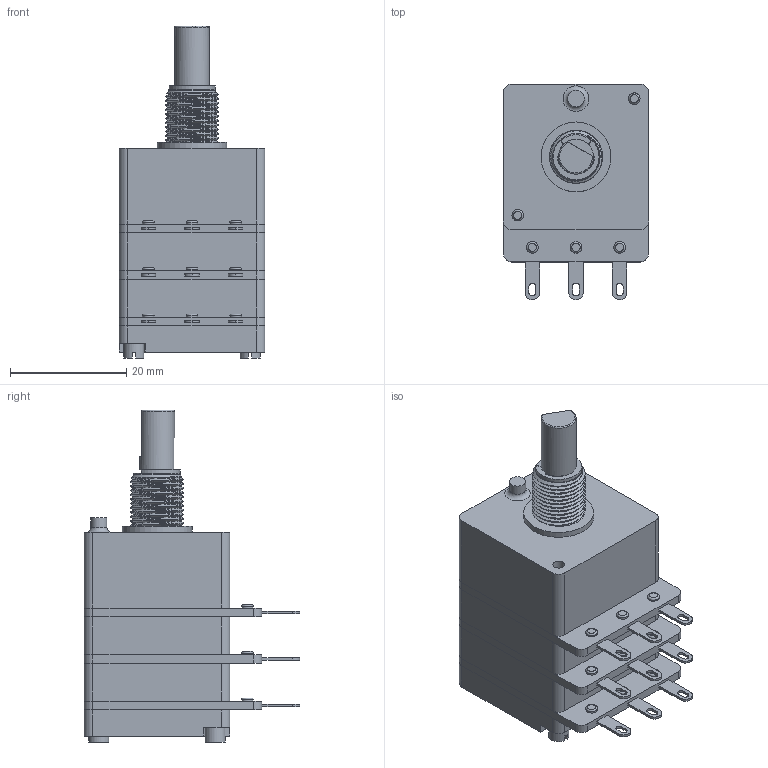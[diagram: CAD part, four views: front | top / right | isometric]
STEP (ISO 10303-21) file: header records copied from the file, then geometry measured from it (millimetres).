
FILE_DESCRIPTION(('FreeCAD Model'),'2;1');
FILE_NAME('Open CASCADE Shape Model','2024-02-26T14:32:26',(''),(''), 'Open CASCADE STEP processor 7.6','FreeCAD','Unknown');
FILE_SCHEMA(('AUTOMOTIVE_DESIGN { 1 0 10303 214 1 1 1 1 }'));
Length unit declared in the file: millimetre
Products named in the file (1): 3cp25xx-f20
Bounding box: 25 x 37 x 57 mm (x, y, z)
Volume: 23217.7 mm3; surface area: 7535.2 mm2
Topology: 1 solids, 16 shells, 382 faces, 849 edges, 529 vertices
Faces by surface type: plane 187, cylinder 139, bspline 38, torus 12, cone 6
Full cylindrical faces by diameter (mm): 1.9 x6, 2 x25, 2.2 x10, 2.8 x1, 3.5 x2, 4.5 x3, 5.4 x1, 6 x1, 6.05 x1, 8 x1, 9.09 x11, 12 x1
Entity records: 31151 total; most frequent: CARTESIAN_POINT 13472, DIRECTION 2933, ORIENTED_EDGE 1696, PCURVE 1696, DEFINITIONAL_REPRESENTATION 1696, LINE 1460, VECTOR 1460, EDGE_CURVE 848
